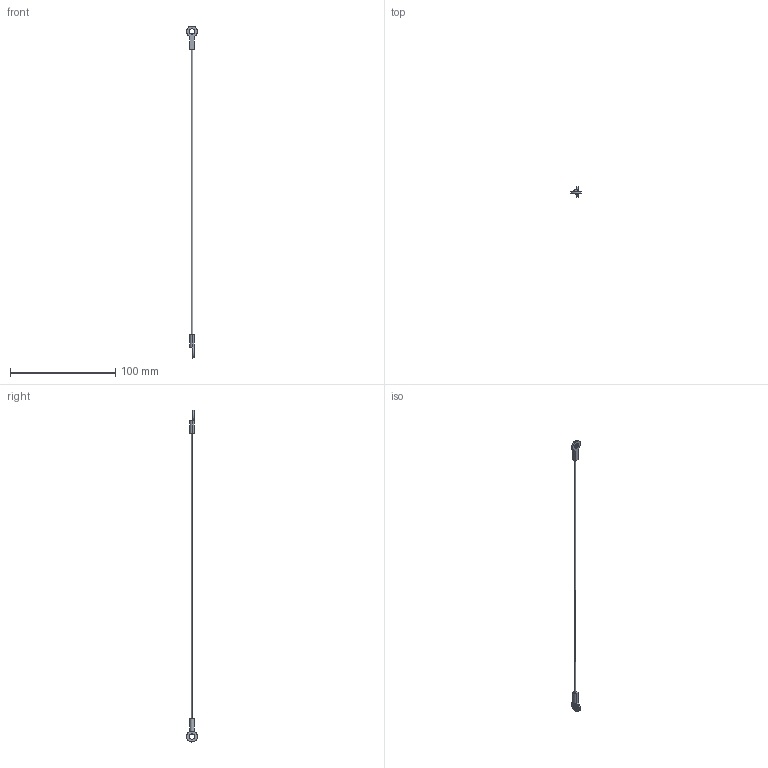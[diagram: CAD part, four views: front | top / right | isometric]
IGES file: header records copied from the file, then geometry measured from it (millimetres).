
Start section: SolidWorks IGES file using analytic representation for surfaces
Global section: file name: C:\Users\ianosborn\Desktop\LA1070_v2\LA1070_v2_20260323_IGES\LA1070.I06-304C1.igs; native system: SolidWorks 2019; preprocessor: SolidWorks 2019; author: IanOsborn; date: 260323.145132; units: millimetre
Bounding box: 10.4 x 10.4 x 315.21 mm (x, y, z)
Surface area: 2130.3 mm2 (no closed solid volume)
Topology: 0 solids, 0 shells, 27 faces, 460 edges, 460 vertices
Faces by surface type: bspline 16, revolution 11
